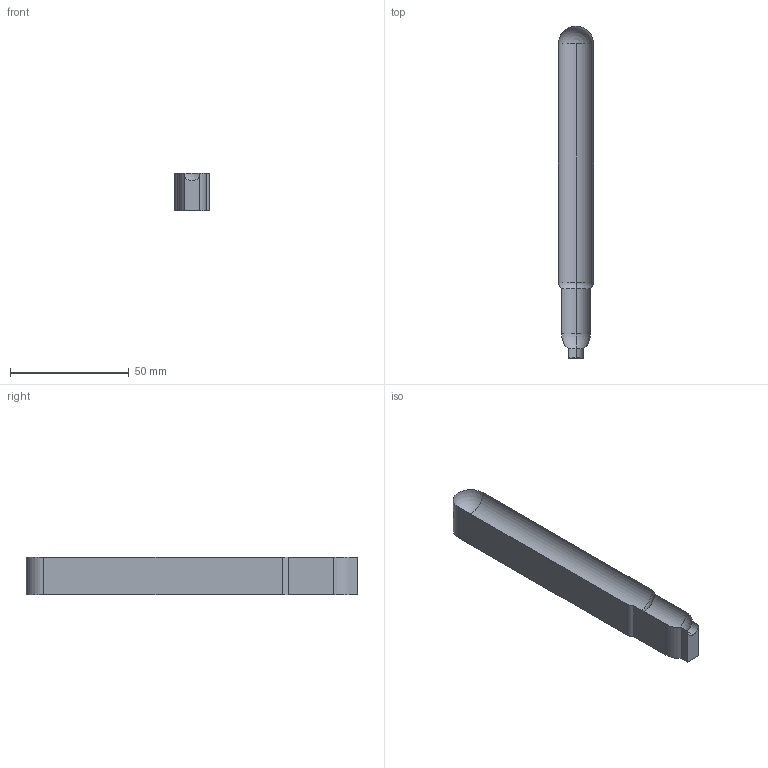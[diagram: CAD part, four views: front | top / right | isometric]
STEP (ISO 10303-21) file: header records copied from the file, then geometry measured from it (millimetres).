
FILE_DESCRIPTION (( 'STEP AP203' ), '1' );
FILE_NAME ('Sharpie_groove_only_oversized.STEP', '2017-08-31T15:49:29', ( '' ), ( '' ), 'SwSTEP 2.0', 'SolidWorks 2015', '' );
FILE_SCHEMA (( 'CONFIG_CONTROL_DESIGN' ));
Length unit declared in the file: inch
Products named in the file (1): Sharpie_groove_only_oversized
Bounding box: 14.73 x 139.7 x 15.88 mm (x, y, z)
Volume: 19938.4 mm3; surface area: 9702.9 mm2
Topology: 1 solids, 1 shells, 24 faces, 53 edges, 30 vertices
Faces by surface type: cylinder 11, plane 8, torus 4, sphere 1
Entity records: 727 total; most frequent: DIRECTION 126, CARTESIAN_POINT 107, ORIENTED_EDGE 104, EDGE_CURVE 52, AXIS2_PLACEMENT_3D 49, VERTEX_POINT 30, VECTOR 28, LINE 28
